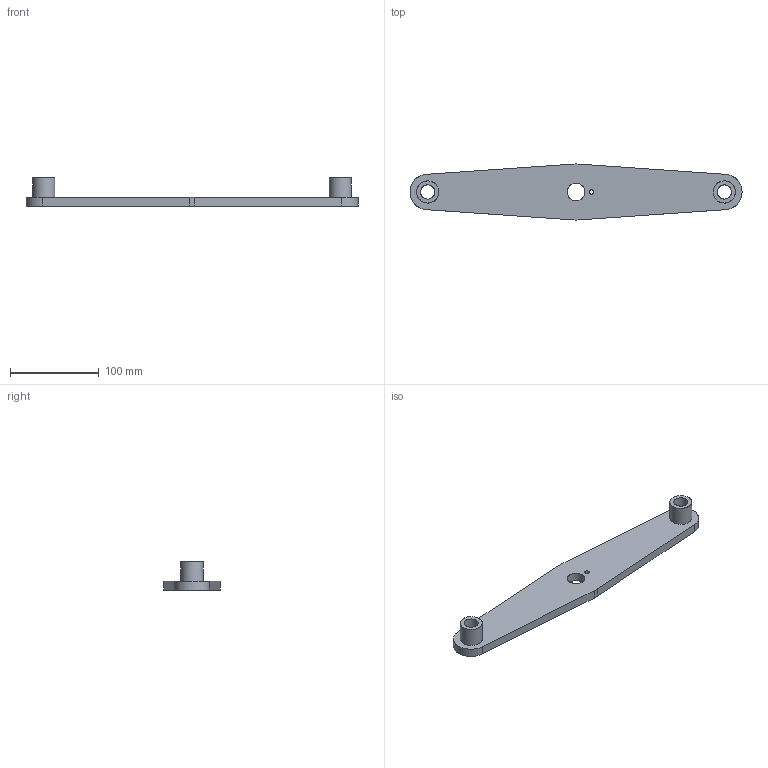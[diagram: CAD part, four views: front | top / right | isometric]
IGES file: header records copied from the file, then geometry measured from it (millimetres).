
Start section: File produced by SOLID-CONCEP (Trim Surfaces - Entity 144)
Global section: file name: 44.igs; native system: SOLID-CONCEPT V.5.xx; preprocessor: SOLID-CONCEPT-IGES-OUT v2.00; date: 100220.122201; units: millimetre
Bounding box: 375 x 63.31 x 32 mm (x, y, z)
Surface area: 51184.9 mm2 (no closed solid volume)
Topology: 0 solids, 0 shells, 18 faces, 124 edges, 112 vertices
Faces by surface type: revolution 10, bspline 8
